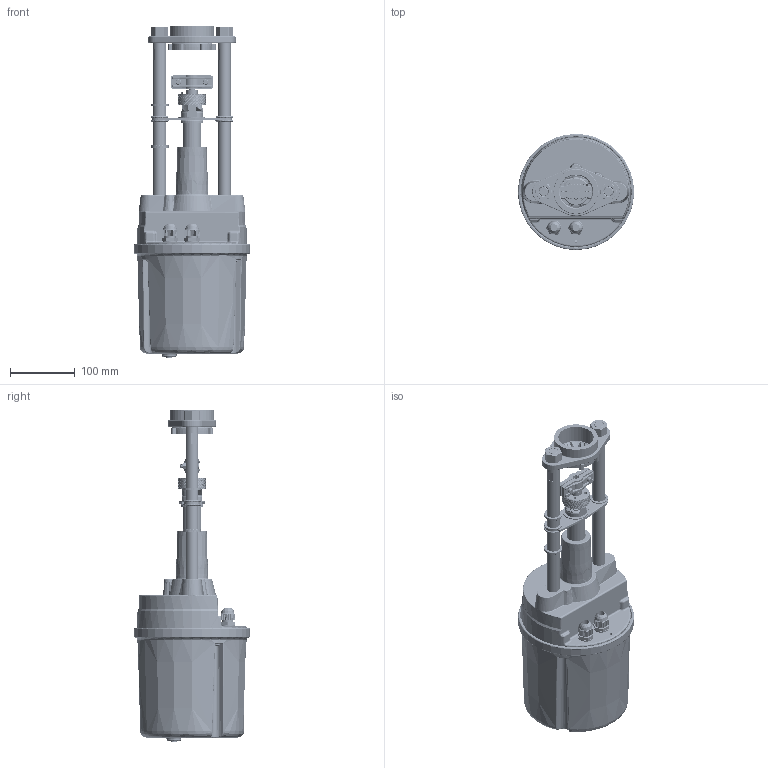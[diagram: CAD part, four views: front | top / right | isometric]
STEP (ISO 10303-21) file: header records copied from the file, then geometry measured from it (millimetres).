
FILE_DESCRIPTION (( 'STEP AP214' ), '1' );
FILE_NAME ('【A-00】装配体.VAJ6xx.0265-说明书使用[M+夹子接口+指示环]-20200514.STEP', '2022-08-29T09:34:18', ( 'User' ), ( 'china' ), 'SwSTEP 2.0', 'SolidWorks 2013', '' );
FILE_SCHEMA (( 'AUTOMOTIVE_DESIGN' ));
Length unit declared in the file: millimetre
Products named in the file (29): VSL硌渀-4mm綠; VAJ6-忒謫粣; PG11 堤盄謂假蚾蹟譫; 210601959.20-概极薊賦啣-20171024B; VAJ6-帽子钉M5x25.十字盘头+防脱; VSL炵蹈 喳揤躇猾菜; M5x12囀鞠褒潑芛階佪; PG11 假蚾躇猾砎蝶菜 18x23x2; 2014啣 VSL湮菁啣; VSL蟀諉裝60mm; VAJ6炵蹈硌渀杶-20200716-窪伎-朴27.6x朴20x汛8; VAJ6系列帽子-圆帽子-天蓝色-20200513; 蹟譫M6-M6x1.0x6.4; VSL湮蹟譫ㄗ幗豪ㄘ1; VAJ6炵蹈俴最硌尨遠-20200716-懦伎-朴27.6x朴20; PG11-出线孔(螺帽带竖纹); VAJ6炵蹈-菁釱翋盓殤-6500N; 蹟譫M16-M16x2.0x14.8; VSL265枍倛蹟譫60俴最 105mm[M33蹟恇+耳34粣噤]1; VAJ6炵蹈俴最硌尨遠-20200716-綻伎-朴27.6x朴20; VAJ6系列阀杆连接铜夹子（车短）; M6x25不锈钢内六角螺钉1; 装配体.PG11-3D图纸（螺帽带竖纹）; T倰譫(M12); M52压紧母黄铜（花螺母M52x2）++; Y型密封圈; 【A-00】装配体.VAJ6xx.0265-说明书使用[M+夹子接口+指示环]-20200514; 轴用卡簧外形图 34（VAJ6指针固定使用）++（示意图）_PreviewCfg; T倰蟀諉璃ㄗ1800Nㄘ
Assembly tree (37 placements, depth 3):
  【A-00】装配体.VAJ6xx.0265-说明书使用[M+夹子接口+指示环]-20200514
    VAJ6炵蹈-菁釱翋盓殤-6500N
    VAJ6系列帽子-圆帽子-天蓝色-20200513
    2014啣 VSL湮菁啣
    210601959.20-概极薊賦啣-20171024B
    T倰蟀諉璃ㄗ1800Nㄘ
    T倰譫(M12)
    VSL265枍倛蹟譫60俴最 105mm[M33蹟恇+耳34粣噤]1
    VSL湮蹟譫ㄗ幗豪ㄘ1
    VSL蟀諉裝60mm  x2
    VSL炵蹈 喳揤躇猾菜
    VSL硌渀-4mm綠
    Y型密封圈
    VAJ6系列阀杆连接铜夹子（车短）  x2
    装配体.PG11-3D图纸（螺帽带竖纹）  x2
      PG11-出线孔(螺帽带竖纹)
      PG11 假蚾躇猾砎蝶菜 18x23x2
      PG11 堤盄謂假蚾蹟譫
    蹟譫M16-M16x2.0x14.8  x2
    蹟譫M6-M6x1.0x6.4  x2
    VAJ6-帽子钉M5x25.十字盘头+防脱  x3
    M52压紧母黄铜（花螺母M52x2）++
    VAJ6炵蹈俴最硌尨遠-20200716-綻伎-朴27.6x朴20
    VAJ6炵蹈俴最硌尨遠-20200716-懦伎-朴27.6x朴20
    VAJ6炵蹈硌渀杶-20200716-窪伎-朴27.6x朴20x汛8  x2
    M5x12囀鞠褒潑芛階佪
    VAJ6-忒謫粣
    轴用卡簧外形图 34（VAJ6指针固定使用）++（示意图）_PreviewCfg
    M6x25不锈钢内六角螺钉1  x2
Bounding box: 179 x 179 x 512.35 mm (x, y, z)
Surface area: 560702.4 mm2 (no closed solid volume)
Topology: 0 solids, 71 shells, 6357 faces, 15637 edges, 9422 vertices
Faces by surface type: bspline 3217, cylinder 1763, plane 1112, cone 242, torus 23
Entity records: 337549 total; most frequent: CARTESIAN_POINT 217925, ORIENTED_EDGE 25332, EDGE_CURVE 12759, DIRECTION 11392, VERTEX_POINT 7549, EDGE_LOOP 5537, ADVANCED_FACE 5331, FACE_OUTER_BOUND 5331
